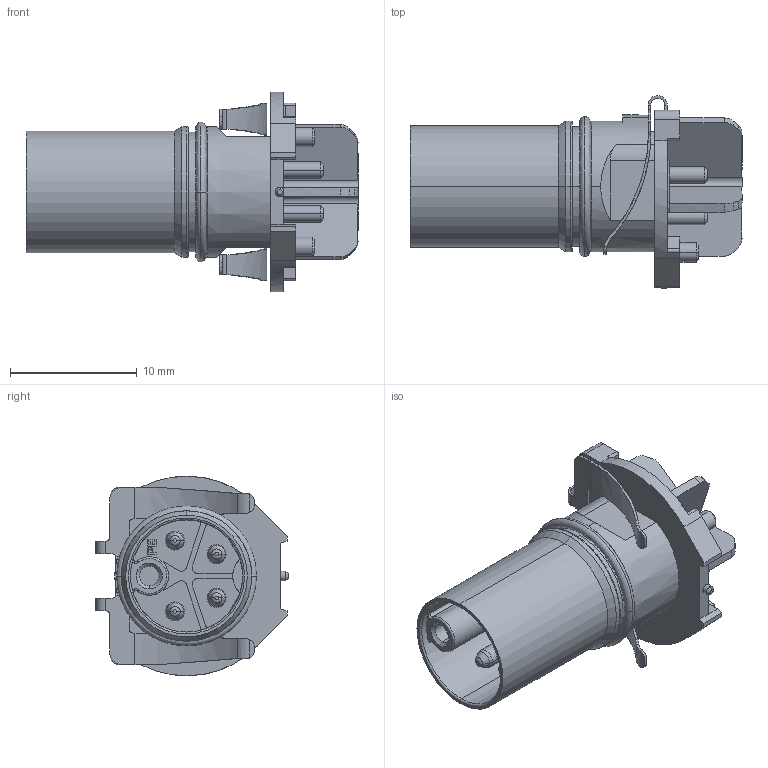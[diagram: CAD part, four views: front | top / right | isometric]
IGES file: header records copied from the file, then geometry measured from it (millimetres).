
Start section:  PTC IGES file: m12k-05pmep-ee0002.igs
Global section: file name: m12k-05pmep-ee0002.igs; native system: Creo Parametric by Parametric Technology Corporation; preprocessor: 2017170; author: L180058; organization: Unknown; date: 20210629.182002; units: millimetre
Bounding box: 26.2 x 15.2 x 15.75 mm (x, y, z)
Volume: 1394.3 mm3; surface area: 2251.1 mm2
Topology: 2 solids, 2 shells, 421 faces, 1122 edges, 728 vertices
Faces by surface type: bspline 211, revolution 200, extrusion 10
